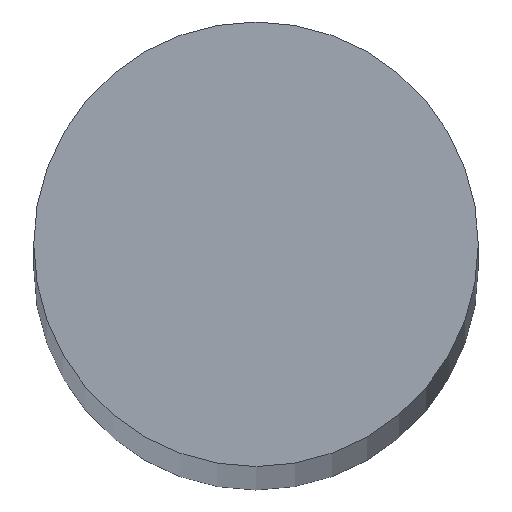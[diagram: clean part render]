
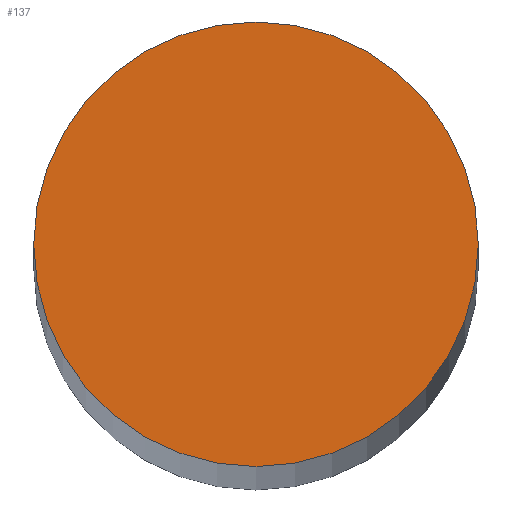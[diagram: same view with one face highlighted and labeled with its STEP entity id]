
A CAD part, top view. The second image highlights one B-rep face of the part: STEP entity #137.
In plain terms, the highlighted planar face has unit normal (0, 0, 1).
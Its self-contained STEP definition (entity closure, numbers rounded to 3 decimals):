
#2 = FACE_OUTER_BOUND ( 'NONE', #30, .T. ) ;
#19 = ORIENTED_EDGE ( 'NONE', *, *, #66, .T. ) ;
#20 = ORIENTED_EDGE ( 'NONE', *, *, #64, .T. ) ;
#30 = EDGE_LOOP ( 'NONE', ( #20, #19 ) ) ;
#40 = CIRCLE ( 'NONE', #61, 6. ) ;
#41 = VERTEX_POINT ( 'NONE', #43 ) ;
#43 = CARTESIAN_POINT ( 'NONE',  ( 6., 0., 181. ) ) ;
#61 = AXIS2_PLACEMENT_3D ( 'NONE', #93, #98, #99 ) ;
#64 = EDGE_CURVE ( 'NONE', #77, #41, #40, .T. ) ;
#65 = AXIS2_PLACEMENT_3D ( 'NONE', #111, #114, #115 ) ;
#66 = EDGE_CURVE ( 'NONE', #41, #77, #140, .T. ) ;
#73 = AXIS2_PLACEMENT_3D ( 'NONE', #100, #102, #103 ) ;
#77 = VERTEX_POINT ( 'NONE', #101 ) ;
#93 = CARTESIAN_POINT ( 'NONE',  ( 0., 0., 181. ) ) ;
#98 = DIRECTION ( 'NONE',  ( 0., 0., 1. ) ) ;
#99 = DIRECTION ( 'NONE',  ( 1., 0., 0. ) ) ;
#100 = CARTESIAN_POINT ( 'NONE',  ( 0., 0., 181. ) ) ;
#101 = CARTESIAN_POINT ( 'NONE',  ( -6., 0., 181. ) ) ;
#102 = DIRECTION ( 'NONE',  ( 0., 0., 1. ) ) ;
#103 = DIRECTION ( 'NONE',  ( 1., 0., 0. ) ) ;
#111 = CARTESIAN_POINT ( 'NONE',  ( 0., 0., 181. ) ) ;
#112 = PLANE ( 'NONE',  #65 ) ;
#114 = DIRECTION ( 'NONE',  ( 0., 0., 1. ) ) ;
#115 = DIRECTION ( 'NONE',  ( 1., 0., 0. ) ) ;
#137 = ADVANCED_FACE ( 'NONE', ( #2 ), #112, .T. ) ;
#140 = CIRCLE ( 'NONE', #73, 6. ) ;
